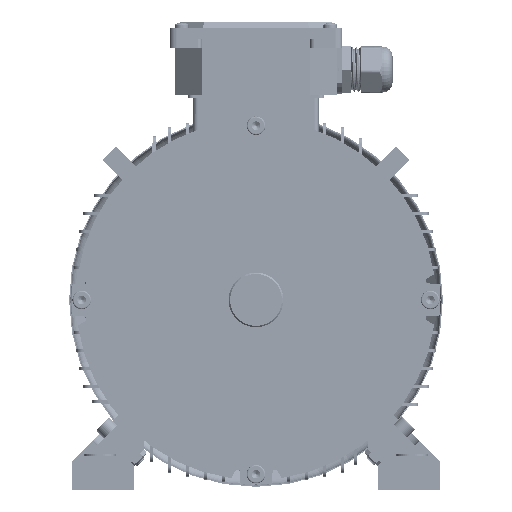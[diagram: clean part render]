
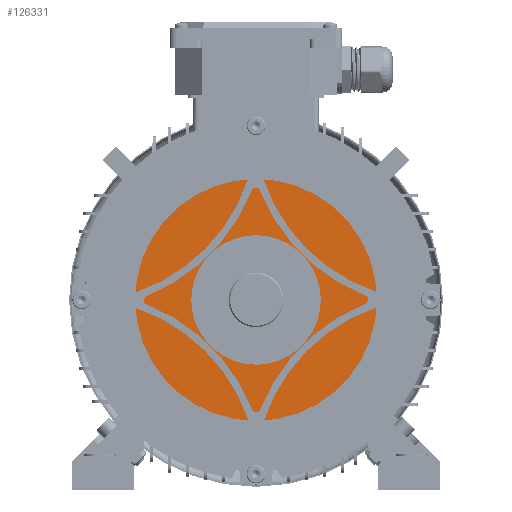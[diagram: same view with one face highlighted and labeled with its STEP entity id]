
A CAD part, front view. The second image highlights one B-rep face of the part: STEP entity #126331.
In plain terms, the highlighted planar face has unit normal (0, -1, 0).
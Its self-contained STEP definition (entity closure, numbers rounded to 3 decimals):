
#1044 = CARTESIAN_POINT ( 'NONE',  ( 0., 11.146, 84. ) ) ;
#5683 = ORIENTED_EDGE ( 'NONE', *, *, #91251, .T. ) ;
#6966 = CARTESIAN_POINT ( 'NONE',  ( 0., 11.146, 0. ) ) ;
#7920 = CARTESIAN_POINT ( 'NONE',  ( 0., 11.146, 0. ) ) ;
#8919 = DIRECTION ( 'NONE',  ( 0., 0., -1. ) ) ;
#11004 = CIRCLE ( 'NONE', #27103, 45. ) ;
#16357 = FACE_BOUND ( 'NONE', #123175, .T. ) ;
#17760 = DIRECTION ( 'NONE',  ( 0., 0., -1. ) ) ;
#18701 = DIRECTION ( 'NONE',  ( 0., 0., -1. ) ) ;
#19126 = ORIENTED_EDGE ( 'NONE', *, *, #51213, .T. ) ;
#21332 = VERTEX_POINT ( 'NONE', #108877 ) ;
#27103 = AXIS2_PLACEMENT_3D ( 'NONE', #6966, #81976, #17760 ) ;
#28252 = AXIS2_PLACEMENT_3D ( 'NONE', #120744, #56648, #131534 ) ;
#32013 = ORIENTED_EDGE ( 'NONE', *, *, #73307, .F. ) ;
#33484 = CARTESIAN_POINT ( 'NONE',  ( 0., 11.146, -45. ) ) ;
#37371 = VERTEX_POINT ( 'NONE', #137842 ) ;
#47337 = CARTESIAN_POINT ( 'NONE',  ( 84., 11.146, 0. ) ) ;
#47816 = PLANE ( 'NONE',  #103144 ) ;
#51213 = EDGE_CURVE ( 'NONE', #103850, #37371, #105188, .T. ) ;
#56648 = DIRECTION ( 'NONE',  ( 0., -1., 0. ) ) ;
#64262 = CIRCLE ( 'NONE', #28252, 84. ) ;
#69436 = DIRECTION ( 'NONE',  ( 0., 0., -1. ) ) ;
#70097 = FACE_OUTER_BOUND ( 'NONE', #89645, .T. ) ;
#73206 = DIRECTION ( 'NONE',  ( 0., -1., 0. ) ) ;
#73307 = EDGE_CURVE ( 'NONE', #81878, #21332, #11004, .T. ) ;
#78949 = AXIS2_PLACEMENT_3D ( 'NONE', #137293, #73206, #8919 ) ;
#81878 = VERTEX_POINT ( 'NONE', #33484 ) ;
#81976 = DIRECTION ( 'NONE',  ( 0., -1., 0. ) ) ;
#82935 = DIRECTION ( 'NONE',  ( 0., -1., 0. ) ) ;
#86669 = ORIENTED_EDGE ( 'NONE', *, *, #108125, .F. ) ;
#89645 = EDGE_LOOP ( 'NONE', ( #5683, #19126 ) ) ;
#91251 = EDGE_CURVE ( 'NONE', #37371, #103850, #64262, .T. ) ;
#103144 = AXIS2_PLACEMENT_3D ( 'NONE', #47337, #133555, #69436 ) ;
#103850 = VERTEX_POINT ( 'NONE', #1044 ) ;
#105188 = CIRCLE ( 'NONE', #78949, 84. ) ;
#108125 = EDGE_CURVE ( 'NONE', #21332, #81878, #123906, .T. ) ;
#108877 = CARTESIAN_POINT ( 'NONE',  ( 0., 11.146, 45. ) ) ;
#120744 = CARTESIAN_POINT ( 'NONE',  ( 0., 11.146, 0. ) ) ;
#123175 = EDGE_LOOP ( 'NONE', ( #32013, #86669 ) ) ;
#123906 = CIRCLE ( 'NONE', #131038, 45. ) ;
#126331 = ADVANCED_FACE ( 'NONE', ( #70097, #16357 ), #47816, .T. ) ;
#131038 = AXIS2_PLACEMENT_3D ( 'NONE', #7920, #82935, #18701 ) ;
#131534 = DIRECTION ( 'NONE',  ( 0., 0., -1. ) ) ;
#133555 = DIRECTION ( 'NONE',  ( 0., -1., 0. ) ) ;
#137293 = CARTESIAN_POINT ( 'NONE',  ( 0., 11.146, 0. ) ) ;
#137842 = CARTESIAN_POINT ( 'NONE',  ( 0., 11.146, -84. ) ) ;
